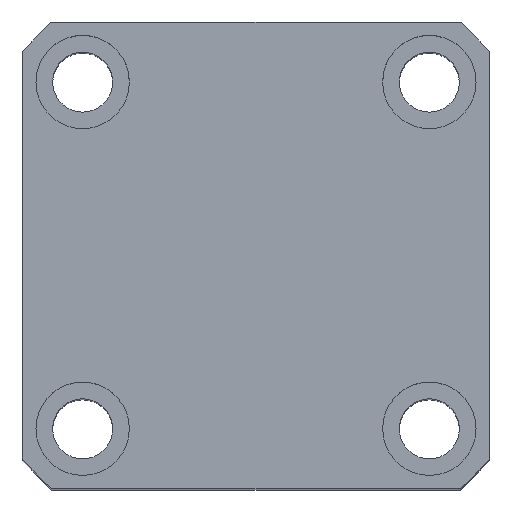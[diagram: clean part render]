
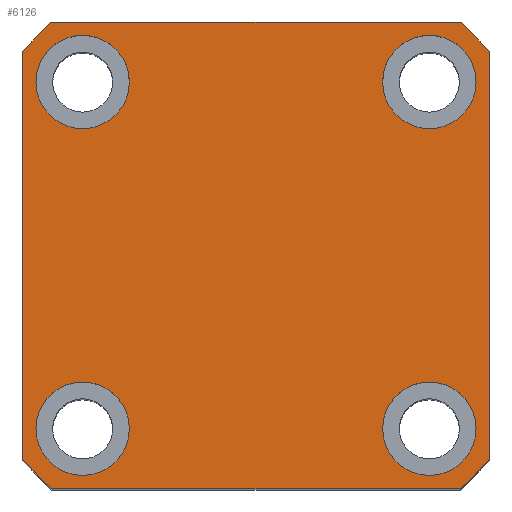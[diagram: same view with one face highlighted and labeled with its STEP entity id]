
A CAD part, top view. The second image highlights one B-rep face of the part: STEP entity #6126.
In plain terms, the highlighted planar face has unit normal (0, 0, 1).
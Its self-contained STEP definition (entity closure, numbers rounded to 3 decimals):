
#15 = CARTESIAN_POINT ( 'NONE',  ( 19., -26., 110. ) ) ;
#50 = DIRECTION ( 'NONE',  ( 0., 0., 1. ) ) ;
#85 = ORIENTED_EDGE ( 'NONE', *, *, #1751, .T. ) ;
#103 = ORIENTED_EDGE ( 'NONE', *, *, #7592, .F. ) ;
#159 = LINE ( 'NONE', #7426, #6137 ) ;
#346 = VERTEX_POINT ( 'NONE', #5035 ) ;
#420 = EDGE_CURVE ( 'NONE', #9417, #3980, #9977, .T. ) ;
#482 = AXIS2_PLACEMENT_3D ( 'NONE', #3305, #8722, #4093 ) ;
#511 = CARTESIAN_POINT ( 'NONE',  ( 26., -26., 110. ) ) ;
#517 = FACE_BOUND ( 'NONE', #5342, .T. ) ;
#540 = CARTESIAN_POINT ( 'NONE',  ( 0., 0., 110. ) ) ;
#610 = DIRECTION ( 'NONE',  ( 0., -1., 0. ) ) ;
#746 = VECTOR ( 'NONE', #610, 1000. ) ;
#802 = DIRECTION ( 'NONE',  ( 0., 0., 1. ) ) ;
#806 = ORIENTED_EDGE ( 'NONE', *, *, #5608, .T. ) ;
#869 = VERTEX_POINT ( 'NONE', #9051 ) ;
#888 = EDGE_CURVE ( 'NONE', #7613, #1462, #2374, .T. ) ;
#1042 = ORIENTED_EDGE ( 'NONE', *, *, #888, .T. ) ;
#1130 = VERTEX_POINT ( 'NONE', #8563 ) ;
#1262 = EDGE_CURVE ( 'NONE', #346, #7366, #5633, .T. ) ;
#1285 = DIRECTION ( 'NONE',  ( 1., 0., 0. ) ) ;
#1291 = DIRECTION ( 'NONE',  ( 0., 0., 1. ) ) ;
#1306 = DIRECTION ( 'NONE',  ( 1., 0., 0. ) ) ;
#1313 = CARTESIAN_POINT ( 'NONE',  ( -35., 35., 110. ) ) ;
#1462 = VERTEX_POINT ( 'NONE', #4505 ) ;
#1524 = AXIS2_PLACEMENT_3D ( 'NONE', #1624, #50, #5508 ) ;
#1549 = CARTESIAN_POINT ( 'NONE',  ( 0., 0., 110. ) ) ;
#1624 = CARTESIAN_POINT ( 'NONE',  ( -26., 26., 110. ) ) ;
#1751 = EDGE_CURVE ( 'NONE', #6554, #346, #2082, .T. ) ;
#1845 = ORIENTED_EDGE ( 'NONE', *, *, #5133, .F. ) ;
#1928 = CARTESIAN_POINT ( 'NONE',  ( 30.615, -35., 110. ) ) ;
#1995 = AXIS2_PLACEMENT_3D ( 'NONE', #511, #5967, #1285 ) ;
#2075 = CARTESIAN_POINT ( 'NONE',  ( -33., -26., 110. ) ) ;
#2082 = CIRCLE ( 'NONE', #2247, 46.5 ) ;
#2172 = ORIENTED_EDGE ( 'NONE', *, *, #420, .F. ) ;
#2247 = AXIS2_PLACEMENT_3D ( 'NONE', #8797, #8763, #8733 ) ;
#2336 = EDGE_CURVE ( 'NONE', #1130, #869, #9940, .T. ) ;
#2370 = FACE_OUTER_BOUND ( 'NONE', #9578, .T. ) ;
#2374 = CIRCLE ( 'NONE', #5758, 46.5 ) ;
#2523 = CARTESIAN_POINT ( 'NONE',  ( -26., -26., 110. ) ) ;
#2650 = CARTESIAN_POINT ( 'NONE',  ( 0., 0., 110. ) ) ;
#2686 = ORIENTED_EDGE ( 'NONE', *, *, #6127, .F. ) ;
#2708 = DIRECTION ( 'NONE',  ( 0., 0., 1. ) ) ;
#2740 = DIRECTION ( 'NONE',  ( 1., 0., 0. ) ) ;
#2753 = VERTEX_POINT ( 'NONE', #4607 ) ;
#2865 = VERTEX_POINT ( 'NONE', #2075 ) ;
#2915 = ORIENTED_EDGE ( 'NONE', *, *, #2336, .F. ) ;
#2983 = CARTESIAN_POINT ( 'NONE',  ( -30.615, 35., 110. ) ) ;
#3305 = CARTESIAN_POINT ( 'NONE',  ( -26., 26., 110. ) ) ;
#3308 = DIRECTION ( 'NONE',  ( 1., 0., 0. ) ) ;
#3426 = CARTESIAN_POINT ( 'NONE',  ( 26., -26., 110. ) ) ;
#3477 = DIRECTION ( 'NONE',  ( 0., 0., 1. ) ) ;
#3498 = CARTESIAN_POINT ( 'NONE',  ( 0., 0., 110. ) ) ;
#3564 = VECTOR ( 'NONE', #3866, 1000. ) ;
#3587 = VERTEX_POINT ( 'NONE', #8093 ) ;
#3780 = EDGE_LOOP ( 'NONE', ( #103, #1845 ) ) ;
#3800 = CIRCLE ( 'NONE', #7756, 7. ) ;
#3833 = VECTOR ( 'NONE', #8296, 1000. ) ;
#3851 = EDGE_CURVE ( 'NONE', #2865, #2753, #3800, .T. ) ;
#3866 = DIRECTION ( 'NONE',  ( 0., 1., 0. ) ) ;
#3870 = ORIENTED_EDGE ( 'NONE', *, *, #4246, .T. ) ;
#3925 = PLANE ( 'NONE',  #7463 ) ;
#3954 = DIRECTION ( 'NONE',  ( 0., 0., 1. ) ) ;
#3980 = VERTEX_POINT ( 'NONE', #9147 ) ;
#4093 = DIRECTION ( 'NONE',  ( 1., 0., 0. ) ) ;
#4209 = DIRECTION ( 'NONE',  ( 1., 0., 0. ) ) ;
#4241 = VERTEX_POINT ( 'NONE', #6586 ) ;
#4246 = EDGE_CURVE ( 'NONE', #7366, #3587, #4398, .T. ) ;
#4280 = DIRECTION ( 'NONE',  ( 1., 0., 0. ) ) ;
#4309 = CIRCLE ( 'NONE', #4823, 7. ) ;
#4398 = CIRCLE ( 'NONE', #4447, 46.5 ) ;
#4406 = ORIENTED_EDGE ( 'NONE', *, *, #7292, .F. ) ;
#4437 = FACE_BOUND ( 'NONE', #3780, .T. ) ;
#4447 = AXIS2_PLACEMENT_3D ( 'NONE', #3498, #8903, #4280 ) ;
#4505 = CARTESIAN_POINT ( 'NONE',  ( -30.615, -35., 110. ) ) ;
#4564 = CIRCLE ( 'NONE', #8036, 46.5 ) ;
#4577 = ORIENTED_EDGE ( 'NONE', *, *, #7707, .T. ) ;
#4607 = CARTESIAN_POINT ( 'NONE',  ( -19., -26., 110. ) ) ;
#4823 = AXIS2_PLACEMENT_3D ( 'NONE', #2523, #7957, #3308 ) ;
#5035 = CARTESIAN_POINT ( 'NONE',  ( 35., -30.615, 110. ) ) ;
#5133 = EDGE_CURVE ( 'NONE', #9446, #4241, #8089, .T. ) ;
#5342 = EDGE_LOOP ( 'NONE', ( #4406, #6376 ) ) ;
#5388 = CIRCLE ( 'NONE', #1995, 7. ) ;
#5508 = DIRECTION ( 'NONE',  ( 1., 0., 0. ) ) ;
#5539 = CARTESIAN_POINT ( 'NONE',  ( -35., 30.615, 110. ) ) ;
#5608 = EDGE_CURVE ( 'NONE', #7741, #8595, #4564, .T. ) ;
#5633 = LINE ( 'NONE', #8960, #3564 ) ;
#5682 = ORIENTED_EDGE ( 'NONE', *, *, #1262, .T. ) ;
#5693 = EDGE_LOOP ( 'NONE', ( #2915, #6957 ) ) ;
#5706 = CARTESIAN_POINT ( 'NONE',  ( 35., 30.615, 110. ) ) ;
#5758 = AXIS2_PLACEMENT_3D ( 'NONE', #2650, #2708, #2740 ) ;
#5967 = DIRECTION ( 'NONE',  ( 0., 0., 1. ) ) ;
#5975 = CARTESIAN_POINT ( 'NONE',  ( -26., -26., 110. ) ) ;
#5991 = DIRECTION ( 'NONE',  ( 0., 0., 1. ) ) ;
#6083 = DIRECTION ( 'NONE',  ( 1., 0., 0. ) ) ;
#6126 = ADVANCED_FACE ( 'NONE', ( #517, #4437, #8560, #6517, #2370 ), #3925, .T. ) ;
#6127 = EDGE_CURVE ( 'NONE', #3980, #9417, #6285, .T. ) ;
#6137 = VECTOR ( 'NONE', #9001, 1000. ) ;
#6258 = EDGE_CURVE ( 'NONE', #869, #1130, #9844, .T. ) ;
#6276 = DIRECTION ( 'NONE',  ( 1., 0., 0. ) ) ;
#6285 = CIRCLE ( 'NONE', #6956, 7. ) ;
#6376 = ORIENTED_EDGE ( 'NONE', *, *, #3851, .F. ) ;
#6517 = FACE_BOUND ( 'NONE', #5693, .T. ) ;
#6554 = VERTEX_POINT ( 'NONE', #1928 ) ;
#6586 = CARTESIAN_POINT ( 'NONE',  ( 33., -26., 110. ) ) ;
#6596 = CARTESIAN_POINT ( 'NONE',  ( 26., 26., 110. ) ) ;
#6607 = EDGE_CURVE ( 'NONE', #1462, #6554, #159, .T. ) ;
#6747 = CARTESIAN_POINT ( 'NONE',  ( -35., -30.615, 110. ) ) ;
#6758 = DIRECTION ( 'NONE',  ( 1., 0., 0. ) ) ;
#6761 = EDGE_CURVE ( 'NONE', #3587, #7741, #7701, .T. ) ;
#6956 = AXIS2_PLACEMENT_3D ( 'NONE', #8592, #3954, #9362 ) ;
#6957 = ORIENTED_EDGE ( 'NONE', *, *, #6258, .F. ) ;
#6977 = LINE ( 'NONE', #9895, #746 ) ;
#7292 = EDGE_CURVE ( 'NONE', #2753, #2865, #4309, .T. ) ;
#7366 = VERTEX_POINT ( 'NONE', #5706 ) ;
#7426 = CARTESIAN_POINT ( 'NONE',  ( -35., -35., 110. ) ) ;
#7463 = AXIS2_PLACEMENT_3D ( 'NONE', #1549, #802, #6276 ) ;
#7592 = EDGE_CURVE ( 'NONE', #4241, #9446, #5388, .T. ) ;
#7613 = VERTEX_POINT ( 'NONE', #6747 ) ;
#7691 = AXIS2_PLACEMENT_3D ( 'NONE', #3426, #8843, #4209 ) ;
#7701 = LINE ( 'NONE', #1313, #3833 ) ;
#7707 = EDGE_CURVE ( 'NONE', #8595, #7613, #6977, .T. ) ;
#7741 = VERTEX_POINT ( 'NONE', #2983 ) ;
#7756 = AXIS2_PLACEMENT_3D ( 'NONE', #5975, #1291, #6758 ) ;
#7957 = DIRECTION ( 'NONE',  ( 0., 0., 1. ) ) ;
#8036 = AXIS2_PLACEMENT_3D ( 'NONE', #540, #5991, #1306 ) ;
#8048 = AXIS2_PLACEMENT_3D ( 'NONE', #6596, #3477, #6083 ) ;
#8089 = CIRCLE ( 'NONE', #7691, 7. ) ;
#8093 = CARTESIAN_POINT ( 'NONE',  ( 30.615, 35., 110. ) ) ;
#8296 = DIRECTION ( 'NONE',  ( -1., 0., 0. ) ) ;
#8386 = CARTESIAN_POINT ( 'NONE',  ( 33., 26., 110. ) ) ;
#8560 = FACE_BOUND ( 'NONE', #9971, .T. ) ;
#8563 = CARTESIAN_POINT ( 'NONE',  ( -19., 26., 110. ) ) ;
#8592 = CARTESIAN_POINT ( 'NONE',  ( 26., 26., 110. ) ) ;
#8595 = VERTEX_POINT ( 'NONE', #5539 ) ;
#8722 = DIRECTION ( 'NONE',  ( 0., 0., 1. ) ) ;
#8733 = DIRECTION ( 'NONE',  ( 1., 0., 0. ) ) ;
#8763 = DIRECTION ( 'NONE',  ( 0., 0., 1. ) ) ;
#8797 = CARTESIAN_POINT ( 'NONE',  ( 0., 0., 110. ) ) ;
#8843 = DIRECTION ( 'NONE',  ( 0., 0., 1. ) ) ;
#8903 = DIRECTION ( 'NONE',  ( 0., 0., 1. ) ) ;
#8941 = ORIENTED_EDGE ( 'NONE', *, *, #6761, .T. ) ;
#8960 = CARTESIAN_POINT ( 'NONE',  ( 35., 35., 110. ) ) ;
#9001 = DIRECTION ( 'NONE',  ( 1., 0., 0. ) ) ;
#9051 = CARTESIAN_POINT ( 'NONE',  ( -33., 26., 110. ) ) ;
#9147 = CARTESIAN_POINT ( 'NONE',  ( 19., 26., 110. ) ) ;
#9362 = DIRECTION ( 'NONE',  ( 1., 0., 0. ) ) ;
#9417 = VERTEX_POINT ( 'NONE', #8386 ) ;
#9446 = VERTEX_POINT ( 'NONE', #15 ) ;
#9578 = EDGE_LOOP ( 'NONE', ( #5682, #3870, #8941, #806, #4577, #1042, #10015, #85 ) ) ;
#9844 = CIRCLE ( 'NONE', #482, 7. ) ;
#9895 = CARTESIAN_POINT ( 'NONE',  ( -35., 35., 110. ) ) ;
#9940 = CIRCLE ( 'NONE', #1524, 7. ) ;
#9971 = EDGE_LOOP ( 'NONE', ( #2172, #2686 ) ) ;
#9977 = CIRCLE ( 'NONE', #8048, 7. ) ;
#10015 = ORIENTED_EDGE ( 'NONE', *, *, #6607, .T. ) ;
